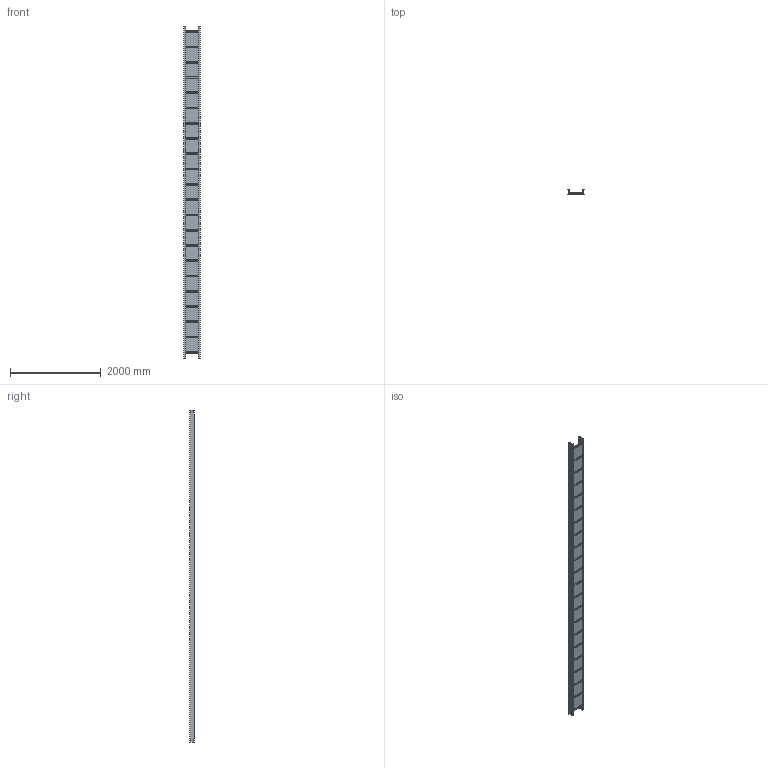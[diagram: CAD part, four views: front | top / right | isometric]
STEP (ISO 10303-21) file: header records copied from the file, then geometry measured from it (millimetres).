
FILE_DESCRIPTION((''),'2;1');
FILE_NAME('AH5412L12288_ASM','2010-02-05T',('erouzier'),(''),'PRO/ENGINEER BY PARAMETRIC TECHNOLOGY CORPORATION, 2008510','PRO/ENGINEER BY PARAMETRIC TECHNOLOGY CORPORATION, 2008510','');
FILE_SCHEMA(('CONFIG_CONTROL_DESIGN'));
Length unit declared in the file: inch
Products named in the file (25): CDS001442-011_AF3; CDS001442-011_AF4; CDS002159L12-P_AF0; CDS002159L12-P_AF1; CDS002159L12-P_AF2; CDS002159L12-P_AF3; CDS002159L12-P_AF4; CDS002159L12-P_AF5; CDS002159L12-P_AF6; CDS002159L12-P_AF7; CDS002159L12-P_AF8; CDS002159L12-P_AF9; CDS002159L12-P_AF10; CDS002159L12-P_AF11; CDS002159L12-P_AF12; CDS002159L12-P_AF13; CDS002159L12-P_AF14; CDS002159L12-P_AF15; CDS002159L12-P_AF16; CDS002159L12-P_AF17; CDS002159L12-P_AF18; CDS002159L12-P_AF19; CDS002159L12-P_AF20; CDS002159L12-P_AF21; AH5412L12288_ASM
Assembly tree (24 placements, depth 2):
  AH5412L12288_ASM
    CDS001442-011_AF3
    CDS001442-011_AF4
    CDS002159L12-P_AF0
    CDS002159L12-P_AF1
    CDS002159L12-P_AF2
    CDS002159L12-P_AF3
    CDS002159L12-P_AF4
    CDS002159L12-P_AF5
    CDS002159L12-P_AF6
    CDS002159L12-P_AF7
    CDS002159L12-P_AF8
    CDS002159L12-P_AF9
    CDS002159L12-P_AF10
    CDS002159L12-P_AF11
    CDS002159L12-P_AF12
    CDS002159L12-P_AF13
    CDS002159L12-P_AF14
    CDS002159L12-P_AF15
    CDS002159L12-P_AF16
    CDS002159L12-P_AF17
    CDS002159L12-P_AF18
    CDS002159L12-P_AF19
    CDS002159L12-P_AF20
    CDS002159L12-P_AF21
Bounding box: 365.25 x 107.62 x 7315.2 mm (x, y, z)
Volume: 9090606 mm3; surface area: 9364286.8 mm2
Topology: 24 solids, 25 shells, 2497 faces, 7348 edges, 4900 vertices
Faces by surface type: plane 1371, cylinder 1126
Entity records: 85065 total; most frequent: CARTESIAN_POINT 14794, DIRECTION 14692, ORIENTED_EDGE 14692, EDGE_CURVE 7348, VECTOR 5096, LINE 5096, VERTEX_POINT 4900, AXIS2_PLACEMENT_3D 4798
